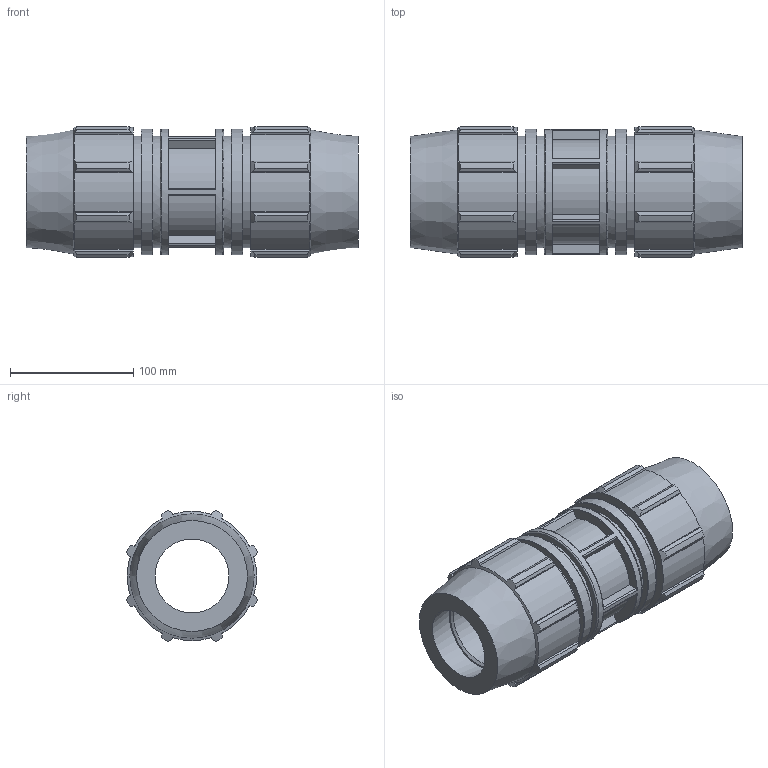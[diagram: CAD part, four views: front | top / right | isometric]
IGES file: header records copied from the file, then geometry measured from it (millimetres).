
Global section: file name: 0761M0020.ipt; native system: Autodesk Inventor 2019; preprocessor: unknown; author: KIM; date: 20210826.124849; units: inch
Bounding box: 269.75 x 106.35 x 106.35 mm (x, y, z)
Volume: 1287958 mm3; surface area: 170652 mm2
Topology: 1 solids, 1 shells, 200 faces, 559 edges, 376 vertices
Faces by surface type: plane 100, cylinder 57, revolution 23, cone 20
Full cylindrical faces by diameter (mm): 90.424 x4, 101.727 x3
